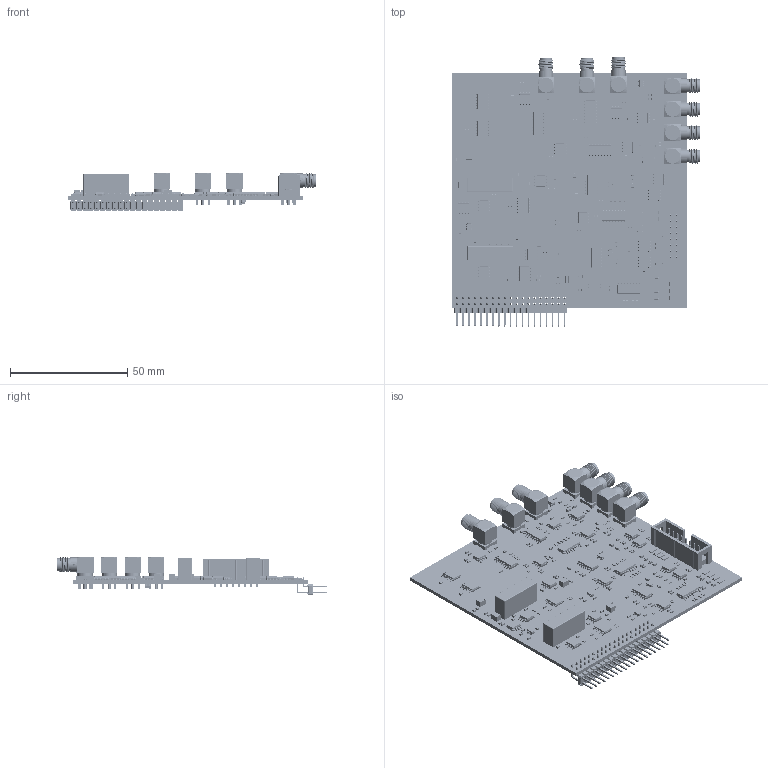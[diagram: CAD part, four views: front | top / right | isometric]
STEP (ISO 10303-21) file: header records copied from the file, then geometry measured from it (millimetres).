
FILE_DESCRIPTION(('KiCad electronic assembly'),'2;1');
FILE_NAME('MULTI-LCR.step','2024-08-09T15:03:27',('Pcbnew'),('Kicad'), 'Open CASCADE STEP processor 7.7','KiCad to STEP converter','Unknown' );
FILE_SCHEMA(('AUTOMOTIVE_DESIGN { 1 0 10303 214 1 1 1 1 }'));
Length unit declared in the file: millimetre
Products named in the file (38): MULTI-LCR 1; C_0603_1608Metric; R_0603_1608Metric; CONREVSMA002-G; SOIC-16_3.9x9.9mm_P1.27mm; SOIC_16_39x99mm_P127mm; L_1210_3225Metric; D_SOD-323; D_SOD_323; R_1206_3216Metric; SOT-23; SOT_23; SOIC-8_3.9x4.9mm_P1.27mm; SOIC_8_39x49mm_P127mm; SOT-23-5; SOT_23_5; SSOP-20_4.4x6.5mm_P0.65mm; SSOP_20_44x65mm_P065mm; SOIC-14_3.9x8.7mm_P1.27mm; SOIC_14_39x87mm_P127mm; IDC-Header_2x08_P2.54mm_Vertical; IDC_Header_2x08_P254mm_Vertical; RBE-0505S; RBE_case; RBE_pin2(-Vin); RBE_pin5(-Vout); RBE_pin4(NC); RBE_potting; RBE_pin6(+Vout); RBE_pin1(+Vin); con_2x19_RA; Cut; MULTI-LCR_PCB
Assembly tree (285 placements, depth 3):
  MULTI-LCR 1
    C_0603_1608Metric  x112
      C_0603_1608Metric
    R_0603_1608Metric  x72
      R_0603_1608Metric
    CONREVSMA002-G  x7
      CONREVSMA002-G
    SOIC-16_3.9x9.9mm_P1.27mm  x5
      SOIC_16_39x99mm_P127mm
    L_1210_3225Metric  x8
      L_1210_3225Metric
    D_SOD-323  x18
      D_SOD_323
    R_1206_3216Metric  x8
      R_1206_3216Metric
    SOT-23  x4
      SOT_23
    SOIC-8_3.9x4.9mm_P1.27mm  x16
      SOIC_8_39x49mm_P127mm
    SOT-23-5  x3
      SOT_23_5
    SSOP-20_4.4x6.5mm_P0.65mm  x4
      SSOP_20_44x65mm_P065mm
    SOIC-14_3.9x8.7mm_P1.27mm  x2
      SOIC_14_39x87mm_P127mm
    IDC-Header_2x08_P2.54mm_Vertical
      IDC_Header_2x08_P254mm_Vertical
    RBE-0505S  x2
      RBE_case
      RBE_pin2(-Vin)
      RBE_pin5(-Vout)
      RBE_pin4(NC)
      RBE_potting
      RBE_pin6(+Vout)
      RBE_pin1(+Vin)
    con_2x19_RA
      Cut
    MULTI-LCR_PCB
Bounding box: 105.7 x 114.83 x 16.45 mm (x, y, z)
Volume: 24191.9 mm3; surface area: 38381.2 mm2
Topology: 304 solids, 304 shells, 15934 faces, 40405 edges, 25554 vertices
Faces by surface type: plane 9918, cylinder 4226, bspline 1676, cone 70, sphere 44
Full cylindrical faces by diameter (mm): 0.5 x4, 0.6 x23, 1 x60, 1.15 x10, 1.5 x7, 1.7 x28
Entity records: 120143 total; most frequent: CARTESIAN_POINT 20285, ORIENTED_EDGE 17742, DIRECTION 17341, EDGE_CURVE 8871, LINE 7181, VECTOR 7181, VERTEX_POINT 5458, AXIS2_PLACEMENT_3D 5080
